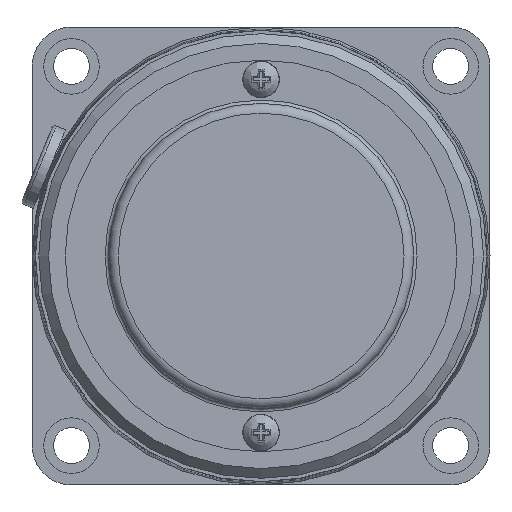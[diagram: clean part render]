
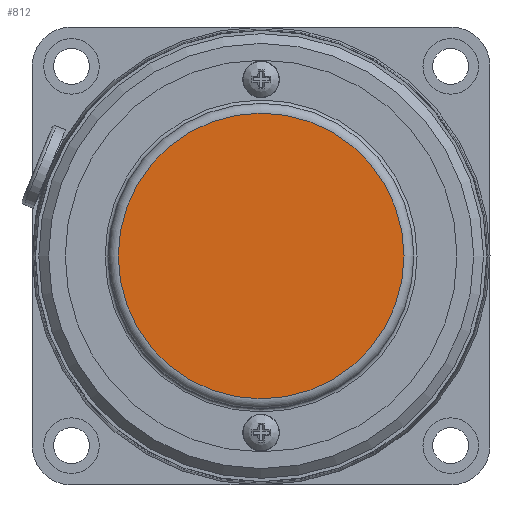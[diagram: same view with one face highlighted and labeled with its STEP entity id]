
A CAD part, left-side view. The second image highlights one B-rep face of the part: STEP entity #812.
In plain terms, the highlighted planar face has unit normal (-1, 0, 0).
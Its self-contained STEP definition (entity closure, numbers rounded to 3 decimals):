
#796=CARTESIAN_POINT('',(-11.8,0.,0.));
#797=DIRECTION('',(1.0,0.0,0.0));
#798=DIRECTION('',(0.0,0.0,-1.0));
#799=AXIS2_PLACEMENT_3D('',#796,#797,#798);
#800=PLANE('',#799);
#801=CARTESIAN_POINT('',(-11.8,0.,21.85));
#802=VERTEX_POINT('',#801);
#803=CARTESIAN_POINT('',(-11.8,0.,0.));
#804=DIRECTION('',(1.0,0.0,0.0));
#805=DIRECTION('',(0.0,0.0,-1.0));
#806=AXIS2_PLACEMENT_3D('',#803,#804,#805);
#807=CIRCLE('',#806,21.85);
#808=EDGE_CURVE('',#802,#802,#807,.T.);
#809=ORIENTED_EDGE('',*,*,#808,.F.);
#810=EDGE_LOOP('',(#809));
#811=FACE_OUTER_BOUND('',#810,.T.);
#812=ADVANCED_FACE('',(#811),#800,.F.);
